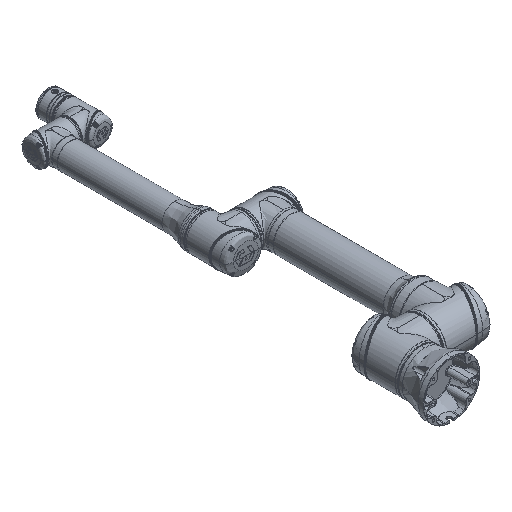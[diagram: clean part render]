
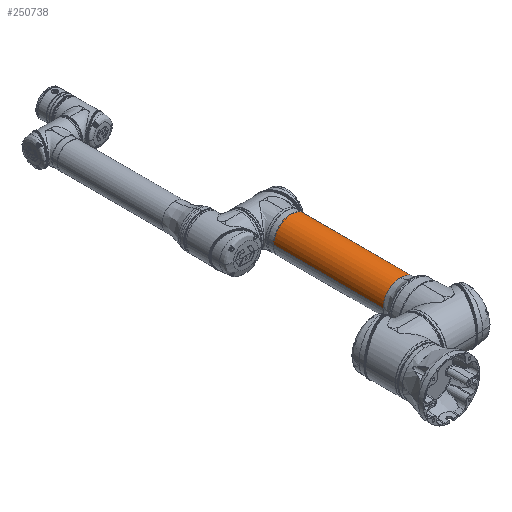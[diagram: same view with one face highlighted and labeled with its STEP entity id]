
A CAD part, isometric view. The second image highlights one B-rep face of the part: STEP entity #250738.
In plain terms, the highlighted cylindrical face has radius 59 mm (diameter 118 mm), a partial arc.
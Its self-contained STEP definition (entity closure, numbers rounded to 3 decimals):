
#17968 = EDGE_CURVE ( 'NONE', #297022, #129682, #138948, .T. ) ;
#18865 = ORIENTED_EDGE ( 'NONE', *, *, #326513, .F. ) ;
#23925 = EDGE_CURVE ( 'NONE', #129682, #415534, #253975, .T. ) ;
#44329 = DIRECTION ( 'NONE',  ( 1., 0., 0. ) ) ;
#46809 = DIRECTION ( 'NONE',  ( 1., 0., 0. ) ) ;
#55938 = VECTOR ( 'NONE', #46809, 1000. ) ;
#63011 = AXIS2_PLACEMENT_3D ( 'NONE', #427037, #44329, #480005 ) ;
#90534 = ORIENTED_EDGE ( 'NONE', *, *, #515356, .T. ) ;
#115742 = AXIS2_PLACEMENT_3D ( 'NONE', #209397, #340719, #332417 ) ;
#119851 = DIRECTION ( 'NONE',  ( 1., 0., 0. ) ) ;
#122681 = DIRECTION ( 'NONE',  ( -1., 0., 0. ) ) ;
#129682 = VERTEX_POINT ( 'NONE', #539434 ) ;
#138948 = LINE ( 'NONE', #524409, #417996 ) ;
#153917 = CARTESIAN_POINT ( 'NONE',  ( 158.463, 0., 59. ) ) ;
#161745 = CARTESIAN_POINT ( 'NONE',  ( 562.7, 0., 0. ) ) ;
#172780 = DIRECTION ( 'NONE',  ( 0., 0., -1. ) ) ;
#209397 = CARTESIAN_POINT ( 'NONE',  ( 158.463, 0., 0. ) ) ;
#211934 = FACE_OUTER_BOUND ( 'NONE', #281870, .T. ) ;
#219970 = DIRECTION ( 'NONE',  ( 1., 0., 0. ) ) ;
#250738 = ADVANCED_FACE ( 'NONE', ( #211934 ), #421517, .T. ) ;
#253975 = CIRCLE ( 'NONE', #530405, 59. ) ;
#281870 = EDGE_LOOP ( 'NONE', ( #18865, #353446, #90534, #401944, #505538 ) ) ;
#297022 = VERTEX_POINT ( 'NONE', #427743 ) ;
#298643 = CARTESIAN_POINT ( 'NONE',  ( 526.1, 0., 0. ) ) ;
#306312 = EDGE_CURVE ( 'NONE', #550574, #375180, #418836, .T. ) ;
#312073 = CARTESIAN_POINT ( 'NONE',  ( 562.7, 0., 59. ) ) ;
#326513 = EDGE_CURVE ( 'NONE', #550574, #415534, #376564, .T. ) ;
#332417 = DIRECTION ( 'NONE',  ( 0., 0., -1. ) ) ;
#339738 = CIRCLE ( 'NONE', #63011, 59. ) ;
#340719 = DIRECTION ( 'NONE',  ( 1., 0., 0. ) ) ;
#353446 = ORIENTED_EDGE ( 'NONE', *, *, #306312, .T. ) ;
#375180 = VERTEX_POINT ( 'NONE', #458209 ) ;
#376564 = LINE ( 'NONE', #312073, #55938 ) ;
#396607 = CARTESIAN_POINT ( 'NONE',  ( 526.1, 0., 59. ) ) ;
#401944 = ORIENTED_EDGE ( 'NONE', *, *, #17968, .T. ) ;
#415534 = VERTEX_POINT ( 'NONE', #396607 ) ;
#417996 = VECTOR ( 'NONE', #219970, 1000. ) ;
#418836 = CIRCLE ( 'NONE', #115742, 59. ) ;
#421517 = CYLINDRICAL_SURFACE ( 'NONE', #464945, 59. ) ;
#427037 = CARTESIAN_POINT ( 'NONE',  ( 158.463, 0., 0. ) ) ;
#427743 = CARTESIAN_POINT ( 'NONE',  ( 158.463, 0., -59. ) ) ;
#458209 = CARTESIAN_POINT ( 'NONE',  ( 158.463, -59., 0. ) ) ;
#464945 = AXIS2_PLACEMENT_3D ( 'NONE', #161745, #119851, #172780 ) ;
#480005 = DIRECTION ( 'NONE',  ( 0., 0., -1. ) ) ;
#505538 = ORIENTED_EDGE ( 'NONE', *, *, #23925, .T. ) ;
#510918 = DIRECTION ( 'NONE',  ( 0., 0., -1. ) ) ;
#515356 = EDGE_CURVE ( 'NONE', #375180, #297022, #339738, .T. ) ;
#524409 = CARTESIAN_POINT ( 'NONE',  ( 562.7, 0., -59. ) ) ;
#530405 = AXIS2_PLACEMENT_3D ( 'NONE', #298643, #122681, #510918 ) ;
#539434 = CARTESIAN_POINT ( 'NONE',  ( 526.1, 0., -59. ) ) ;
#550574 = VERTEX_POINT ( 'NONE', #153917 ) ;
